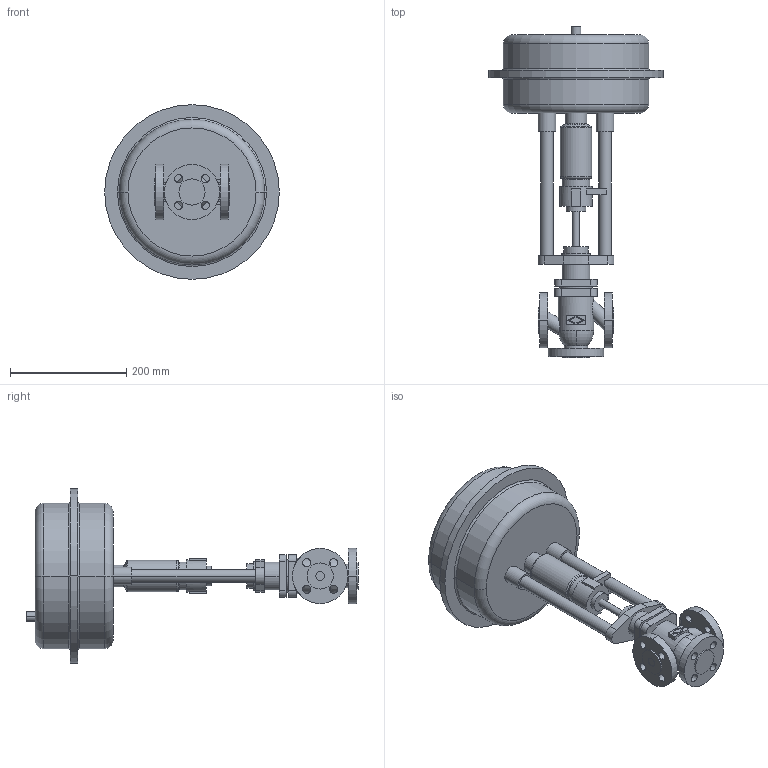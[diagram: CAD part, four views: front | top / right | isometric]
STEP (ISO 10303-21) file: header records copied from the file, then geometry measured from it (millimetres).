
FILE_DESCRIPTION(('OneSpaceDesigner STEP Export'),'2;1');
FILE_NAME('c000000669.stp','2006-09-19T10:04:26',(''),(''),'OneSpace Designer STEP processor for AP214 (Solid Model)','OneSpace Designer 13.20A 18-Aug-2005 (C) CoCreate Software GmbH','');
FILE_SCHEMA(('AUTOMOTIVE_DESIGN { 1 0 10303 214 1 1 1 1 }'));
Length unit declared in the file: millimetre
Products named in the file (2): 1; 2
Bounding box: 300 x 570.6 x 300 mm (x, y, z)
Volume: 8198491.8 mm3; surface area: 423792.8 mm2
Topology: 2 solids, 2 shells, 205 faces, 497 edges, 326 vertices
Faces by surface type: cylinder 100, plane 83, torus 18, cone 4
Entity records: 5499 total; most frequent: CARTESIAN_POINT 1035, ORIENTED_EDGE 994, DIRECTION 818, EDGE_CURVE 497, VERTEX_POINT 326, AXIS2_PLACEMENT_3D 294, EDGE_LOOP 259, VECTOR 230
